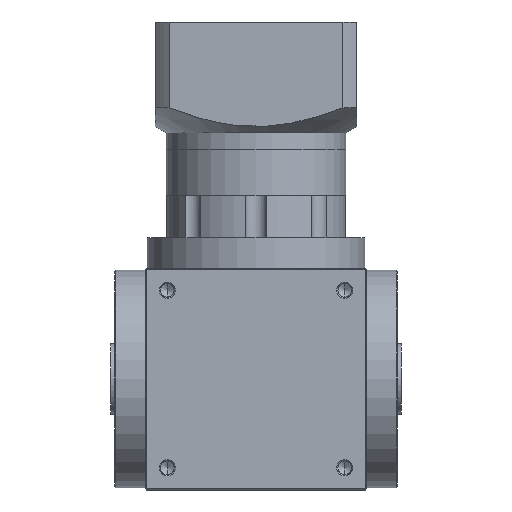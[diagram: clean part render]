
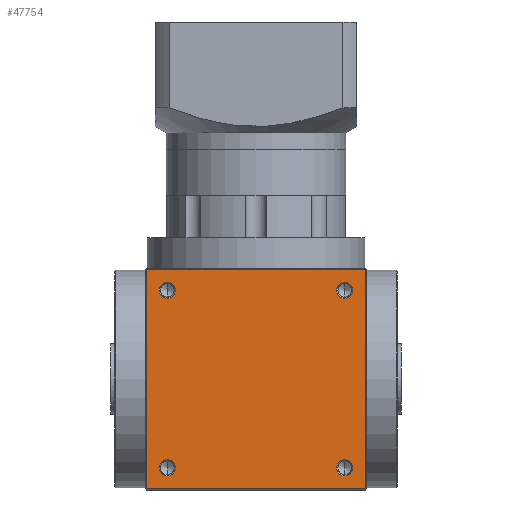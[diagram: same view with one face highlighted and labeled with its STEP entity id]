
A CAD part, front view. The second image highlights one B-rep face of the part: STEP entity #47754.
In plain terms, the highlighted planar face has unit normal (0, -1, 0).
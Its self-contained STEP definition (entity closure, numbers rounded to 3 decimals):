
#481 = CARTESIAN_POINT ( 'NONE',  ( 44., -55., 99. ) ) ;
#3497 = CIRCLE ( 'NONE', #47226, 4.025 ) ;
#3612 = EDGE_LOOP ( 'NONE', ( #22704, #22377, #45994, #19602 ) ) ;
#4678 = DIRECTION ( 'NONE',  ( 1., 0., 0. ) ) ;
#4935 = EDGE_LOOP ( 'NONE', ( #48658, #15854 ) ) ;
#5006 = CARTESIAN_POINT ( 'NONE',  ( 44., -55., 99. ) ) ;
#6064 = VERTEX_POINT ( 'NONE', #8110 ) ;
#6297 = CARTESIAN_POINT ( 'NONE',  ( -39.975, -55., 11. ) ) ;
#6428 = CARTESIAN_POINT ( 'NONE',  ( 54.5, -55., 0.5 ) ) ;
#6483 = VERTEX_POINT ( 'NONE', #51105 ) ;
#6834 = DIRECTION ( 'NONE',  ( 0., -1., 0. ) ) ;
#6984 = EDGE_LOOP ( 'NONE', ( #42629, #40931 ) ) ;
#7294 = EDGE_CURVE ( 'NONE', #41796, #6064, #22300, .T. ) ;
#7309 = AXIS2_PLACEMENT_3D ( 'NONE', #14275, #18601, #46238 ) ;
#7823 = ORIENTED_EDGE ( 'NONE', *, *, #15537, .F. ) ;
#8110 = CARTESIAN_POINT ( 'NONE',  ( -54.5, -55., 0.5 ) ) ;
#8287 = ORIENTED_EDGE ( 'NONE', *, *, #51522, .F. ) ;
#8868 = DIRECTION ( 'NONE',  ( 1., 0., 0. ) ) ;
#8938 = DIRECTION ( 'NONE',  ( 0., -1., 0. ) ) ;
#8990 = CARTESIAN_POINT ( 'NONE',  ( -44., -55., 99. ) ) ;
#9355 = DIRECTION ( 'NONE',  ( 1., 0., 0. ) ) ;
#10033 = CIRCLE ( 'NONE', #17726, 4.025 ) ;
#11563 = DIRECTION ( 'NONE',  ( 0., 0., 1. ) ) ;
#11582 = VERTEX_POINT ( 'NONE', #13490 ) ;
#12292 = CARTESIAN_POINT ( 'NONE',  ( -44., -55., 99. ) ) ;
#12569 = CARTESIAN_POINT ( 'NONE',  ( -55., -55., 109.5 ) ) ;
#12990 = CARTESIAN_POINT ( 'NONE',  ( -54.5, -55., 110. ) ) ;
#13097 = EDGE_LOOP ( 'NONE', ( #31088, #48236 ) ) ;
#13490 = CARTESIAN_POINT ( 'NONE',  ( -48.025, -55., 11. ) ) ;
#14184 = DIRECTION ( 'NONE',  ( 0., -1., 0. ) ) ;
#14275 = CARTESIAN_POINT ( 'NONE',  ( -55., -55., 110. ) ) ;
#14950 = DIRECTION ( 'NONE',  ( 0., -1., 0. ) ) ;
#15013 = LINE ( 'NONE', #12569, #16920 ) ;
#15063 = DIRECTION ( 'NONE',  ( 0., 0., -1. ) ) ;
#15083 = CARTESIAN_POINT ( 'NONE',  ( -54.5, -55., 109.5 ) ) ;
#15135 = CARTESIAN_POINT ( 'NONE',  ( 54.5, -55., 110. ) ) ;
#15292 = EDGE_CURVE ( 'NONE', #32260, #41796, #29695, .T. ) ;
#15537 = EDGE_CURVE ( 'NONE', #16224, #41981, #20537, .T. ) ;
#15654 = VERTEX_POINT ( 'NONE', #6297 ) ;
#15854 = ORIENTED_EDGE ( 'NONE', *, *, #34394, .F. ) ;
#16091 = EDGE_LOOP ( 'NONE', ( #8287, #7823 ) ) ;
#16224 = VERTEX_POINT ( 'NONE', #51059 ) ;
#16637 = DIRECTION ( 'NONE',  ( 1., 0., 0. ) ) ;
#16920 = VECTOR ( 'NONE', #40940, 1000. ) ;
#17113 = EDGE_CURVE ( 'NONE', #6064, #20642, #20524, .T. ) ;
#17629 = CARTESIAN_POINT ( 'NONE',  ( 39.975, -55., 99. ) ) ;
#17726 = AXIS2_PLACEMENT_3D ( 'NONE', #481, #30112, #4678 ) ;
#18601 = DIRECTION ( 'NONE',  ( 0., 1., 0. ) ) ;
#18754 = AXIS2_PLACEMENT_3D ( 'NONE', #32152, #6834, #35972 ) ;
#19280 = CIRCLE ( 'NONE', #46416, 4.025 ) ;
#19602 = ORIENTED_EDGE ( 'NONE', *, *, #15292, .F. ) ;
#20186 = CARTESIAN_POINT ( 'NONE',  ( 48.025, -55., 99. ) ) ;
#20524 = LINE ( 'NONE', #12990, #25860 ) ;
#20537 = CIRCLE ( 'NONE', #22269, 4.025 ) ;
#20642 = VERTEX_POINT ( 'NONE', #15083 ) ;
#20831 = AXIS2_PLACEMENT_3D ( 'NONE', #21353, #48649, #25560 ) ;
#21353 = CARTESIAN_POINT ( 'NONE',  ( -44., -55., 11. ) ) ;
#21716 = VERTEX_POINT ( 'NONE', #20186 ) ;
#22203 = CARTESIAN_POINT ( 'NONE',  ( 39.975, -55., 11. ) ) ;
#22269 = AXIS2_PLACEMENT_3D ( 'NONE', #8990, #8938, #8868 ) ;
#22300 = LINE ( 'NONE', #27150, #22716 ) ;
#22377 = ORIENTED_EDGE ( 'NONE', *, *, #17113, .F. ) ;
#22704 = ORIENTED_EDGE ( 'NONE', *, *, #29360, .F. ) ;
#22716 = VECTOR ( 'NONE', #27114, 1000. ) ;
#24990 = CIRCLE ( 'NONE', #50293, 4.025 ) ;
#25277 = VERTEX_POINT ( 'NONE', #22203 ) ;
#25560 = DIRECTION ( 'NONE',  ( 1., 0., 0. ) ) ;
#25860 = VECTOR ( 'NONE', #11563, 1000. ) ;
#25900 = FACE_OUTER_BOUND ( 'NONE', #3612, .T. ) ;
#26003 = FACE_BOUND ( 'NONE', #13097, .T. ) ;
#26113 = FACE_BOUND ( 'NONE', #6984, .T. ) ;
#26428 = FACE_BOUND ( 'NONE', #4935, .T. ) ;
#27114 = DIRECTION ( 'NONE',  ( -1., 0., 0. ) ) ;
#27150 = CARTESIAN_POINT ( 'NONE',  ( -55., -55., 0.5 ) ) ;
#27775 = FACE_BOUND ( 'NONE', #16091, .T. ) ;
#29097 = VECTOR ( 'NONE', #15063, 1000. ) ;
#29360 = EDGE_CURVE ( 'NONE', #20642, #32260, #15013, .T. ) ;
#29695 = LINE ( 'NONE', #15135, #29097 ) ;
#30112 = DIRECTION ( 'NONE',  ( 0., -1., 0. ) ) ;
#31088 = ORIENTED_EDGE ( 'NONE', *, *, #45717, .F. ) ;
#31368 = EDGE_CURVE ( 'NONE', #21716, #43790, #10033, .T. ) ;
#32152 = CARTESIAN_POINT ( 'NONE',  ( 44., -55., 11. ) ) ;
#32260 = VERTEX_POINT ( 'NONE', #38351 ) ;
#33841 = EDGE_CURVE ( 'NONE', #11582, #15654, #43233, .T. ) ;
#34339 = DIRECTION ( 'NONE',  ( 0., -1., 0. ) ) ;
#34394 = EDGE_CURVE ( 'NONE', #25277, #6483, #35365, .T. ) ;
#35365 = CIRCLE ( 'NONE', #18754, 4.025 ) ;
#35972 = DIRECTION ( 'NONE',  ( 1., 0., 0. ) ) ;
#36898 = CARTESIAN_POINT ( 'NONE',  ( -39.975, -55., 99. ) ) ;
#36912 = EDGE_CURVE ( 'NONE', #43790, #21716, #24990, .T. ) ;
#38351 = CARTESIAN_POINT ( 'NONE',  ( 54.5, -55., 109.5 ) ) ;
#38573 = CARTESIAN_POINT ( 'NONE',  ( 44., -55., 11. ) ) ;
#39235 = CARTESIAN_POINT ( 'NONE',  ( -44., -55., 11. ) ) ;
#40704 = DIRECTION ( 'NONE',  ( 0., -1., 0. ) ) ;
#40931 = ORIENTED_EDGE ( 'NONE', *, *, #36912, .F. ) ;
#40940 = DIRECTION ( 'NONE',  ( 1., 0., 0. ) ) ;
#41221 = AXIS2_PLACEMENT_3D ( 'NONE', #38573, #14184, #42388 ) ;
#41796 = VERTEX_POINT ( 'NONE', #6428 ) ;
#41981 = VERTEX_POINT ( 'NONE', #36898 ) ;
#42388 = DIRECTION ( 'NONE',  ( 1., 0., 0. ) ) ;
#42629 = ORIENTED_EDGE ( 'NONE', *, *, #31368, .F. ) ;
#43077 = DIRECTION ( 'NONE',  ( 1., 0., 0. ) ) ;
#43233 = CIRCLE ( 'NONE', #20831, 4.025 ) ;
#43790 = VERTEX_POINT ( 'NONE', #17629 ) ;
#45717 = EDGE_CURVE ( 'NONE', #15654, #11582, #3497, .T. ) ;
#45994 = ORIENTED_EDGE ( 'NONE', *, *, #7294, .F. ) ;
#45999 = EDGE_CURVE ( 'NONE', #6483, #25277, #50399, .T. ) ;
#46238 = DIRECTION ( 'NONE',  ( 0., 0., 1. ) ) ;
#46416 = AXIS2_PLACEMENT_3D ( 'NONE', #12292, #40704, #16637 ) ;
#47226 = AXIS2_PLACEMENT_3D ( 'NONE', #39235, #14950, #43077 ) ;
#47754 = ADVANCED_FACE ( 'NONE', ( #26428, #26113, #27775, #26003, #25900 ), #49777, .F. ) ;
#48236 = ORIENTED_EDGE ( 'NONE', *, *, #33841, .F. ) ;
#48649 = DIRECTION ( 'NONE',  ( 0., -1., 0. ) ) ;
#48658 = ORIENTED_EDGE ( 'NONE', *, *, #45999, .F. ) ;
#49777 = PLANE ( 'NONE',  #7309 ) ;
#50293 = AXIS2_PLACEMENT_3D ( 'NONE', #5006, #34339, #9355 ) ;
#50399 = CIRCLE ( 'NONE', #41221, 4.025 ) ;
#51059 = CARTESIAN_POINT ( 'NONE',  ( -48.025, -55., 99. ) ) ;
#51105 = CARTESIAN_POINT ( 'NONE',  ( 48.025, -55., 11. ) ) ;
#51522 = EDGE_CURVE ( 'NONE', #41981, #16224, #19280, .T. ) ;
